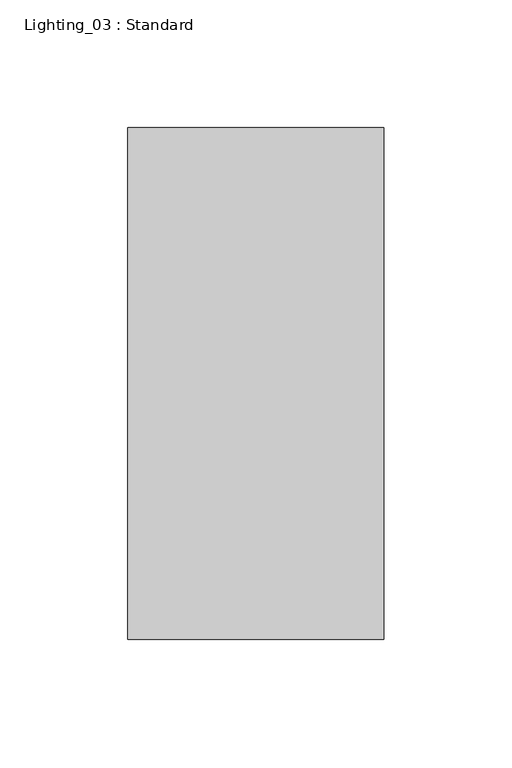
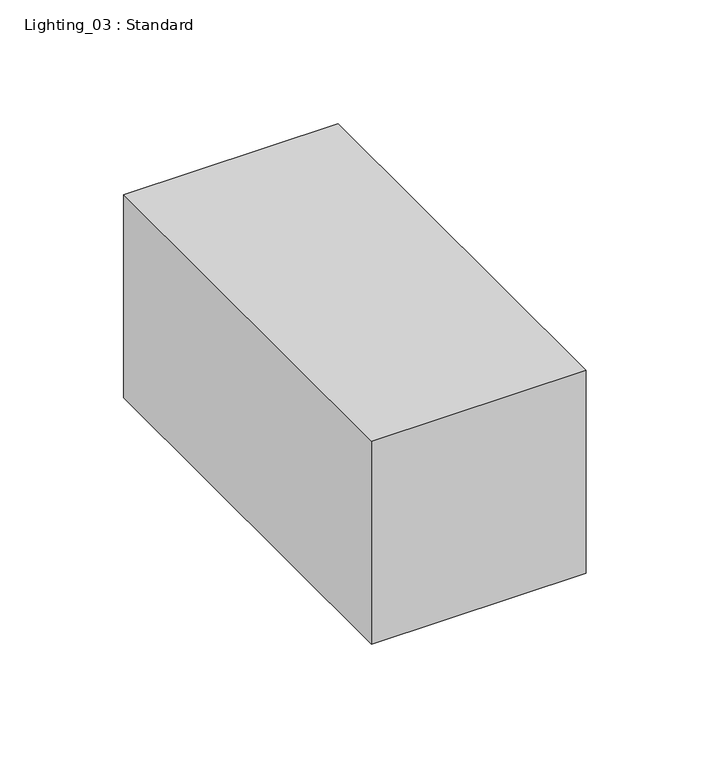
"""IFC4 building model written with IfcOpenShell, lengths in millimetres: light fixture geometry, Lighting_03 : Standard."""

import ifcopenshell
import ifcopenshell.guid

model = None  # the IFC model being written
_history = None  # IfcOwnerHistory: only IFC2X3 demands one
_inside = {}  # id of a spatial element -> (the spatial element, [elements in it])
_under = {}  # id of a project, library or spatial element -> (it, [spatial elements below it])
_declared = {}  # id of a project -> (the project, [libraries it declares])
_typed = {}  # id of a type object -> (the type object, [elements of that type])
_made_of = {}  # id of a material, layer set ... -> (it, [elements and type objects made of it])


def new_model(schema):
    """Start an empty IFC model of exactly this schema.

    Asked for "IFC4X3", IfcOpenShell would pick the latest addendum, in which some entities
    have other attributes; the version numbers below select the first issue.
    IFC2X3 requires an IfcOwnerHistory on every rooted entity: one is made here for all.
    """
    global model, _history
    if schema == "IFC4X3":
        model = ifcopenshell.file(schema_version=(4, 3, 0, 0))
    else:
        model = ifcopenshell.file(schema=schema)
    _inside.clear()
    _under.clear()
    _declared.clear()
    _typed.clear()
    _made_of.clear()
    _history = None
    if model.schema == "IFC2X3":
        org = make("IfcOrganization", Name="unknown")
        user = make(
            "IfcPersonAndOrganization",
            ThePerson=make("IfcPerson", FamilyName="unknown"),
            TheOrganization=org,
        )
        app = make(
            "IfcApplication",
            ApplicationDeveloper=org,
            Version="unknown",
            ApplicationFullName="unknown",
            ApplicationIdentifier="unknown",
        )
        _history = make(
            "IfcOwnerHistory",
            OwningUser=user,
            OwningApplication=app,
            ChangeAction="ADDED",
            CreationDate=0,
        )
    return model


def make(cls, **values):
    """One entity of the class cls with the attributes given. An attribute that is None is left unset."""
    return model.create_entity(
        cls, **{name: value for name, value in values.items() if value is not None}
    )


def rooted(cls, **values):
    """An entity with a GlobalId (a new one), such as an element, a storey or a relation."""
    return make(cls, GlobalId=ifcopenshell.guid.new(), OwnerHistory=_history, **values)


def si_unit(unit_type, name, prefix=None):
    """IfcSIUnit, for example si_unit("LENGTHUNIT", "METRE", prefix="MILLI")."""
    return make("IfcSIUnit", UnitType=unit_type, Prefix=prefix, Name=name)


def assignment(units):
    """IfcUnitAssignment: the units of a project."""
    return None if units is None else make("IfcUnitAssignment", Units=units)


def point(xyz):
    """IfcCartesianPoint."""
    return None if xyz is None else make("IfcCartesianPoint", Coordinates=xyz)


def direction(xyz):
    """IfcDirection."""
    return None if xyz is None else make("IfcDirection", DirectionRatios=xyz)


def frame(location, z_axis=None, x_axis=None):
    """IfcAxis2Placement3D, a coordinate frame: its origin and axes. An axis left out is left unset."""
    return make(
        "IfcAxis2Placement3D",
        Location=point(location),
        Axis=direction(z_axis),
        RefDirection=direction(x_axis),
    )


def origin():
    """The frame at (0, 0, 0) with its axes left unset."""
    return frame((0.0, 0.0, 0.0))


def origin_with_axes():
    """The frame at (0, 0, 0) with the z axis (0, 0, 1) and the x axis (1, 0, 0) written out."""
    return frame((0.0, 0.0, 0.0), z_axis=(0.0, 0.0, 1.0), x_axis=(1.0, 0.0, 0.0))


def place(relative_to, where):
    """IfcLocalPlacement: puts the frame where relative to a parent placement (None: the world)."""
    return make(
        "IfcLocalPlacement", PlacementRelTo=relative_to, RelativePlacement=where
    )


def context(
    kind, dimensions, precision=None, world=None, true_north=None, identifier=None
):
    """IfcGeometricRepresentationContext, for example the 3D "Model" context."""
    return make(
        "IfcGeometricRepresentationContext",
        ContextIdentifier=identifier,
        ContextType=kind,
        CoordinateSpaceDimension=dimensions,
        Precision=precision,
        WorldCoordinateSystem=world,
        TrueNorth=true_north,
    )


def project(units=None, contexts=None):
    """IfcProject with its units and contexts."""
    return rooted(
        "IfcProject",
        Name="project",
        RepresentationContexts=contexts,
        UnitsInContext=assignment(units),
    )


def spatial(cls, under=None, at=None, **own):
    """A site, building, storey or space (cls), placed at a placement, below another one or the project."""
    s = rooted(cls, ObjectPlacement=at, **own)
    if under is not None:
        _under.setdefault(under.id(), (under, []))[1].append(s)
    return s


def polyline(points):
    """IfcPolyline through the points."""
    return make("IfcPolyline", Points=[point(p) for p in points])


def outline(outer, holes=None, kind="AREA"):
    """IfcArbitraryClosedProfileDef: a profile drawn as a closed curve; with holes, ...WithVoids."""
    if holes is None:
        return make("IfcArbitraryClosedProfileDef", ProfileType=kind, OuterCurve=outer)
    return make(
        "IfcArbitraryProfileDefWithVoids",
        ProfileType=kind,
        OuterCurve=outer,
        InnerCurves=holes,
    )


def extrude(swept, where, along, depth):
    """IfcExtrudedAreaSolid: the profile swept, set in the frame where, extruded along a direction by depth."""
    return make(
        "IfcExtrudedAreaSolid",
        SweptArea=swept,
        Position=where,
        ExtrudedDirection=direction(along),
        Depth=depth,
    )


def shape(context_of_items, identifier, shape_type, items):
    """IfcShapeRepresentation: the items that make up one representation, for example the "Body"."""
    return make(
        "IfcShapeRepresentation",
        ContextOfItems=context_of_items,
        RepresentationIdentifier=identifier,
        RepresentationType=shape_type,
        Items=items,
    )


def source(mapping_origin, context_of_items, identifier, shape_type, items):
    """IfcRepresentationMap: a shape defined once, which mapped items show again and again."""
    return make(
        "IfcRepresentationMap",
        MappingOrigin=mapping_origin,
        MappedRepresentation=shape(context_of_items, identifier, shape_type, items),
    )


def transform(
    local_origin,
    x_axis=None,
    y_axis=None,
    z_axis=None,
    scale=None,
    scale2=None,
    scale3=None,
    uniform=True,
):
    """IfcCartesianTransformationOperator3D, or its non-uniform kind. x_axis, y_axis, z_axis: its Axis1, 2, 3."""
    if uniform:
        return make(
            "IfcCartesianTransformationOperator3D",
            Axis1=direction(x_axis),
            Axis2=direction(y_axis),
            LocalOrigin=point(local_origin),
            Scale=scale,
            Axis3=direction(z_axis),
        )
    return make(
        "IfcCartesianTransformationOperator3DnonUniform",
        Axis1=direction(x_axis),
        Axis2=direction(y_axis),
        LocalOrigin=point(local_origin),
        Scale=scale,
        Axis3=direction(z_axis),
        Scale2=scale2,
        Scale3=scale3,
    )


def mapped(mapping_source, mapping_target):
    """IfcMappedItem: shows the shape of a source again, moved by a transform."""
    return make(
        "IfcMappedItem", MappingSource=mapping_source, MappingTarget=mapping_target
    )


def made_of(thing, what):
    """Note that an element or type object is made of a material, layer set ...; save() writes the relation."""
    if what is not None:
        _made_of.setdefault(what.id(), (what, []))[1].append(thing)
    return thing


def element(
    cls,
    number,
    at=None,
    inside=None,
    cuts=None,
    type_object=None,
    material=None,
    context=None,
    identifier="Body",
    shape_type=None,
    held_by="IfcProductDefinitionShape",
    body=None,
    shapes=None,
    **own,
):
    """One element of the class cls, such as IfcWall. Its Tag is "e" and its number.

    at: its placement. inside: the storey or other place that contains it. cuts: it is an
    opening in that element (IfcRelVoidsElement). A single representation is given by context,
    identifier, shape_type and body (its items); several are given by shapes. held_by: the class
    of the entity that holds the representations. save() writes the other relations.
    """
    e = rooted(cls, Tag="e%d" % number, ObjectPlacement=at, **own)
    if body is not None:
        shapes = [shape(context, identifier, shape_type, body)]
    if shapes is not None:
        e.Representation = make(held_by, Representations=shapes)
    if inside is not None:
        _inside.setdefault(inside.id(), (inside, []))[1].append(e)
    if cuts is not None:
        rooted(
            "IfcRelVoidsElement", RelatingBuildingElement=cuts, RelatedOpeningElement=e
        )
    if type_object is not None:
        _typed.setdefault(type_object.id(), (type_object, []))[1].append(e)
    return made_of(e, material)


def aggregate(whole, parts):
    """IfcRelAggregates: a whole, such as a stair, and the parts it consists of."""
    return rooted("IfcRelAggregates", RelatingObject=whole, RelatedObjects=parts)


def save(model, path):
    """Write the relations noted so far, then the file.

    IfcRelAggregates (storeys below a building ...), IfcRelContainedInSpatialStructure (elements
    in a storey), IfcRelDefinesByType, IfcRelAssociatesMaterial and IfcRelDeclares: one each for
    every whole, place, type object, material and project.
    """
    for whole, parts in _under.values():
        aggregate(whole, parts)
    for where, things in _inside.values():
        rooted(
            "IfcRelContainedInSpatialStructure",
            RelatedElements=things,
            RelatingStructure=where,
        )
    for kind, things in _typed.values():
        rooted("IfcRelDefinesByType", RelatedObjects=things, RelatingType=kind)
    for what, things in _made_of.values():
        rooted("IfcRelAssociatesMaterial", RelatedObjects=things, RelatingMaterial=what)
    for by, libraries in _declared.values():
        rooted("IfcRelDeclares", RelatingContext=by, RelatedDefinitions=libraries)
    model.write(path)


def lighting_03_standard_dff19e4f(model_context):
    return source(origin(), model_context, "Body", "SweptSolid", [
        extrude(outline(polyline([(50.0, 100.0), (50.0, -100.0), (-50.0, -100.0), (-50.0, 100.0), (50.0, 100.0)])), origin_with_axes(), (0.0, 0.0, 1.0), 100.0),
    ])


if __name__ == "__main__":
    model = new_model("IFC4")
    model_context = context("Model", 3, world=origin())
    ifc_project = project(units=[si_unit("LENGTHUNIT", "METRE", prefix="MILLI")], contexts=[model_context])
    site = spatial("IfcSite", under=ifc_project)
    building = spatial("IfcBuilding", under=site)
    placement = place(None, origin())
    lighting_03_standard_shape = lighting_03_standard_dff19e4f(model_context)
    element("IfcLightFixture", 1, ObjectType="Lighting_03 : Standard", at=placement, inside=building, context=model_context, shape_type="MappedRepresentation", body=[
        mapped(lighting_03_standard_shape, transform((0.0, 0.0, 0.0), x_axis=(1.0, 0.0, 0.0), y_axis=(0.0, 1.0, 0.0), z_axis=(0.0, 0.0, 1.0))),
    ])
    save(model, "model.ifc")
